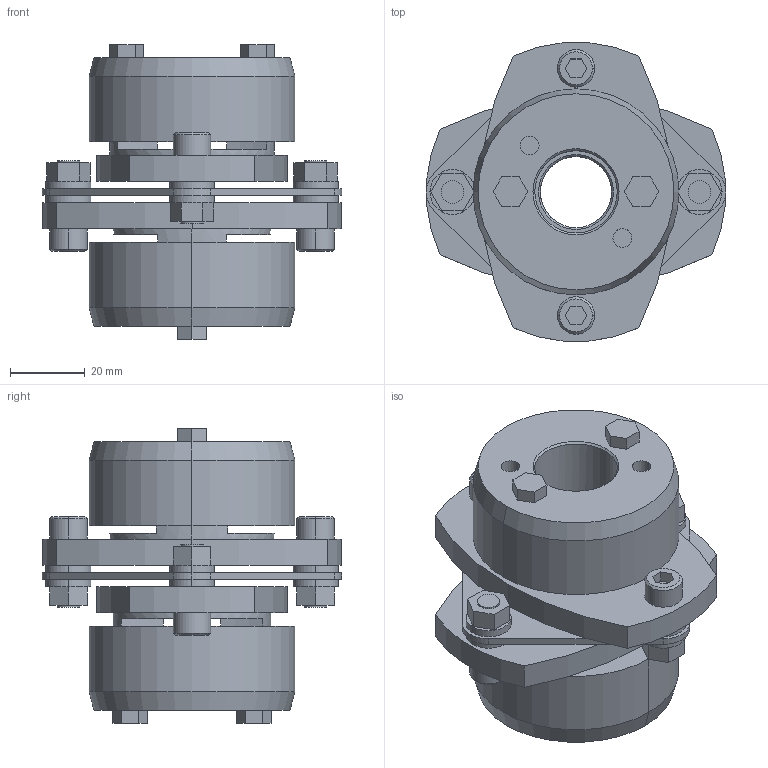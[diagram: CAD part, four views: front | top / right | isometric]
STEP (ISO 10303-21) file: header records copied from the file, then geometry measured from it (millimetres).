
FILE_DESCRIPTION((''),'2;1');
FILE_NAME('LCS-80T7-19×22.stp','2011-09-12T15:17:17',(''),(''),'AutoCAD STEP 2000i','AutoCAD 2000i',', , ');
FILE_SCHEMA(('CONFIG_CONTROL_DESIGN'));
Length unit declared in the file: millimetre
Products named in the file (8): LCS-80T7-19×22; 忣兜1; LC80T7-T022; LC80T7-T019-1; LC80T7-T019; LC80T7-T017-1; LC80T7-T017; LCS80-ITA
Assembly tree (7 placements, depth 2):
  LCS-80T7-19×22
    忣兜1
    LC80T7-T022
    LC80T7-T019-1
    LC80T7-T019
    LC80T7-T017-1
    LC80T7-T017
    LCS80-ITA
Bounding box: 80 x 79.95 x 78.75 mm (x, y, z)
Volume: 149492.4 mm3; surface area: 42372.8 mm2
Topology: 1 solids, 1 shells, 218 faces, 532 edges, 348 vertices
Faces by surface type: plane 118, cylinder 80, cone 20
Entity records: 6661 total; most frequent: DIRECTION 1180, CARTESIAN_POINT 1106, ORIENTED_EDGE 1064, EDGE_CURVE 532, AXIS2_PLACEMENT_3D 422, VERTEX_POINT 348, VECTOR 336, LINE 336
